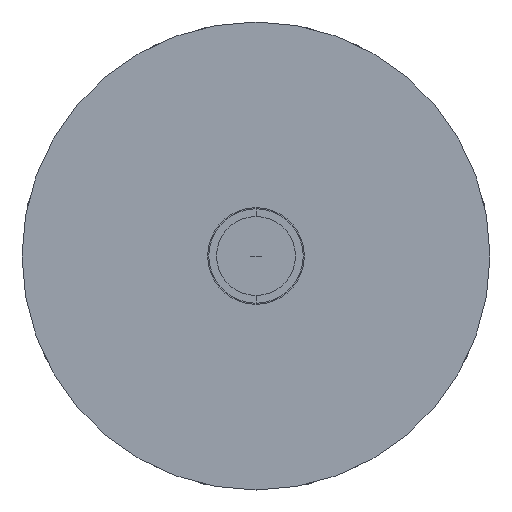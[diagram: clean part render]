
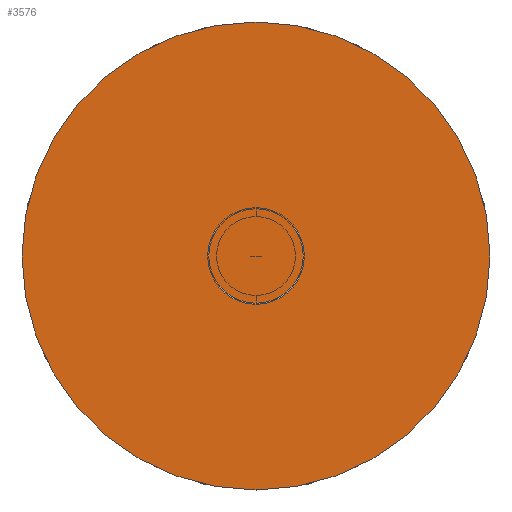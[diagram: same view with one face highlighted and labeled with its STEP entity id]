
A CAD part, front view. The second image highlights one B-rep face of the part: STEP entity #3576.
In plain terms, the highlighted planar face has unit normal (0, -1, 0).
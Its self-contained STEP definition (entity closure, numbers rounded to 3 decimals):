
#40 = DIRECTION ( 'NONE',  ( 0., 1., 0. ) ) ;
#532 = DIRECTION ( 'NONE',  ( 0., 1., 0. ) ) ;
#569 = CARTESIAN_POINT ( 'NONE',  ( 0., 0., 0. ) ) ;
#1734 = EDGE_LOOP ( 'NONE', ( #5806, #6143 ) ) ;
#1756 = AXIS2_PLACEMENT_3D ( 'NONE', #4033, #40, #3561 ) ;
#2126 = CARTESIAN_POINT ( 'NONE',  ( 0., 0., 0. ) ) ;
#2347 = CIRCLE ( 'NONE', #6652, 150. ) ;
#2441 = EDGE_CURVE ( 'NONE', #2687, #6829, #2347, .T. ) ;
#2595 = EDGE_CURVE ( 'NONE', #6829, #2687, #7040, .T. ) ;
#2687 = VERTEX_POINT ( 'NONE', #5102 ) ;
#3177 = CARTESIAN_POINT ( 'NONE',  ( 0., 0., 150. ) ) ;
#3561 = DIRECTION ( 'NONE',  ( 0., 0., 1. ) ) ;
#3576 = ADVANCED_FACE ( 'NONE', ( #7402 ), #5278, .F. ) ;
#4033 = CARTESIAN_POINT ( 'NONE',  ( 0., 0., 0. ) ) ;
#4309 = DIRECTION ( 'NONE',  ( 0., 1., 0. ) ) ;
#5102 = CARTESIAN_POINT ( 'NONE',  ( 0., 0., -150. ) ) ;
#5278 = PLANE ( 'NONE',  #1756 ) ;
#5496 = DIRECTION ( 'NONE',  ( 0., 0., 1. ) ) ;
#5694 = DIRECTION ( 'NONE',  ( 0., 0., 1. ) ) ;
#5806 = ORIENTED_EDGE ( 'NONE', *, *, #2441, .F. ) ;
#6143 = ORIENTED_EDGE ( 'NONE', *, *, #2595, .F. ) ;
#6424 = AXIS2_PLACEMENT_3D ( 'NONE', #569, #532, #5694 ) ;
#6652 = AXIS2_PLACEMENT_3D ( 'NONE', #2126, #4309, #5496 ) ;
#6829 = VERTEX_POINT ( 'NONE', #3177 ) ;
#7040 = CIRCLE ( 'NONE', #6424, 150. ) ;
#7402 = FACE_OUTER_BOUND ( 'NONE', #1734, .T. ) ;
